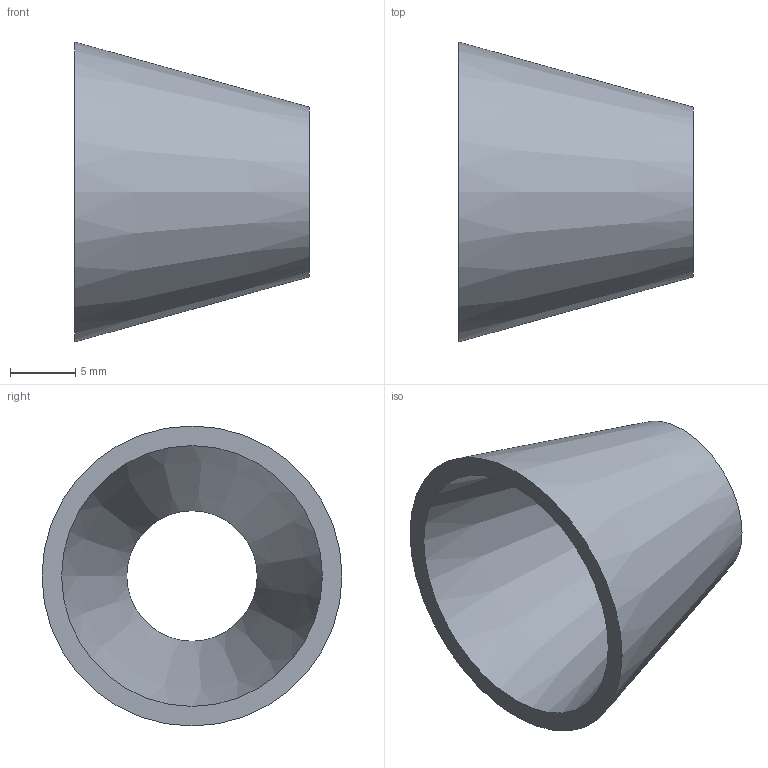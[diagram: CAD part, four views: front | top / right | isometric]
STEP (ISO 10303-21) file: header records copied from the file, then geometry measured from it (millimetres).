
FILE_DESCRIPTION(('FreeCAD Model'),'2;1');
FILE_NAME( '/home/martin/Documents/proyect/accesorios/stp/red-con_DN20-10.step', '2017-12-31T12:22:42',('Author'),(''), 'Open CASCADE STEP processor 6.8','FreeCAD','Unknown');
FILE_SCHEMA(('AUTOMOTIVE_DESIGN_CC2 { 1 2 10303 214 -1 1 5 4 }'));
Length unit declared in the file: millimetre
Products named in the file (1): red-con_DN20-10
Bounding box: 18 x 23 x 23 mm (x, y, z)
Volume: 1399.6 mm3; surface area: 2092.3 mm2
Topology: 1 solids, 1 shells, 4 faces, 6 edges, 4 vertices
Faces by surface type: cone 2, plane 2
Entity records: 191 total; most frequent: CARTESIAN_POINT 33, DIRECTION 26, ORIENTED_EDGE 12, PCURVE 12, DEFINITIONAL_REPRESENTATION 12, AXIS2_PLACEMENT_3D 9, CIRCLE 8, FACE_BOUND 6
